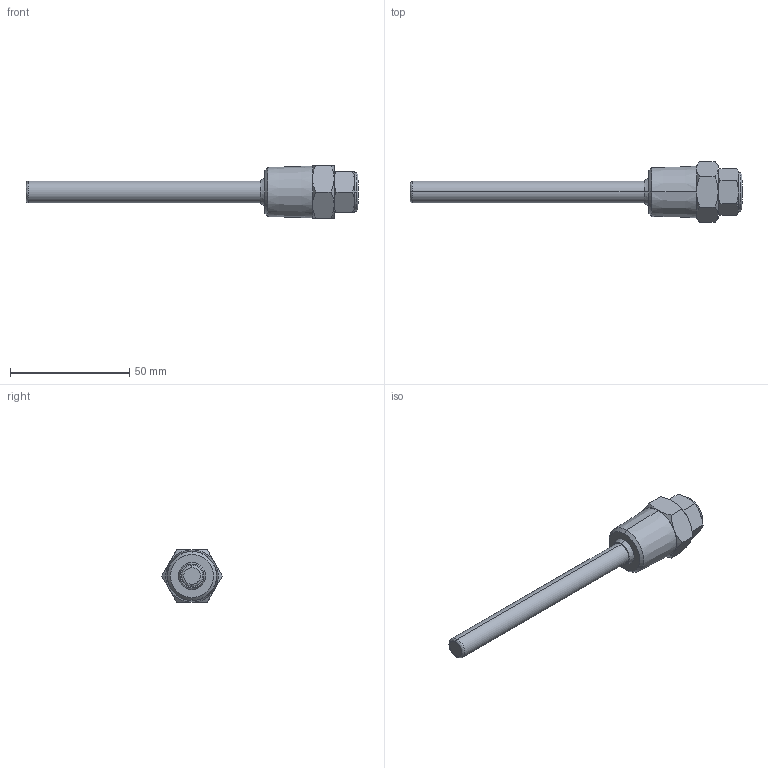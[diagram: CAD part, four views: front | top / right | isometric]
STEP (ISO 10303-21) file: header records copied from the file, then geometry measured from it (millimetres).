
FILE_DESCRIPTION (( 'STEP AP203' ), '1' );
FILE_NAME ('THW-6-N1_2-L100.step', '2015-03-26T18:16:45', ( 'Turck User' ), ( '' ), 'SwSTEP 2.0', 'SolidWorks 2014', '' );
FILE_SCHEMA (( 'CONFIG_CONTROL_DESIGN' ));
Length unit declared in the file: millimetre
Products named in the file (2): THW-6-N1_2-L100
Bounding box: 139 x 25.4 x 22 mm (x, y, z)
Volume: 19388.4 mm3; surface area: 6144.9 mm2
Topology: 1 solids, 1 shells, 63 faces, 133 edges, 78 vertices
Faces by surface type: cone 35, plane 20, cylinder 6, bspline 2
Entity records: 1985 total; most frequent: CARTESIAN_POINT 555, ORIENTED_EDGE 266, DIRECTION 261, EDGE_CURVE 133, AXIS2_PLACEMENT_3D 116, VERTEX_POINT 78, EDGE_LOOP 69, ADVANCED_FACE 63
